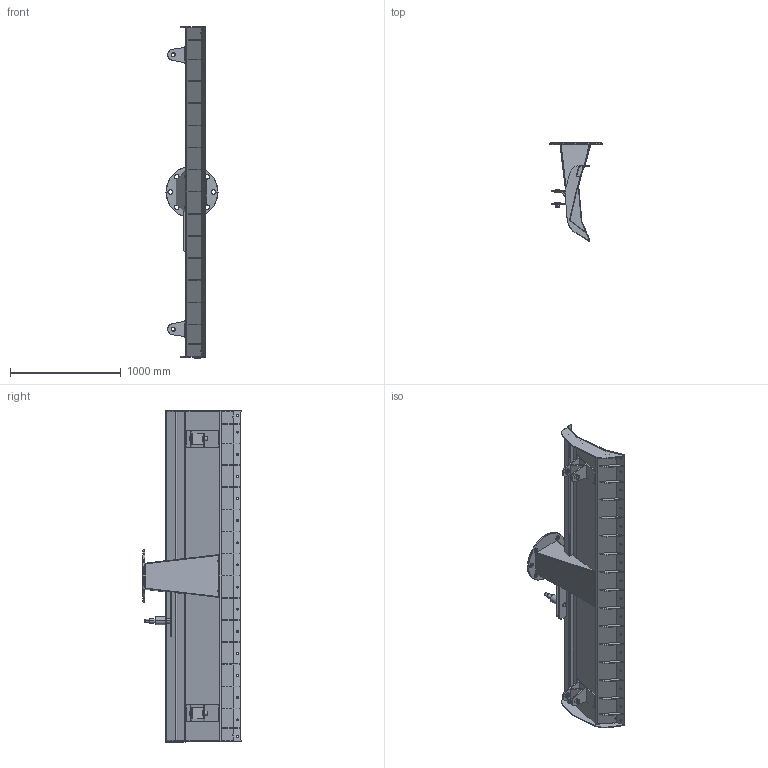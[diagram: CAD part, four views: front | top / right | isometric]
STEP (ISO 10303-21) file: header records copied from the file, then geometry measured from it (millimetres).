
FILE_DESCRIPTION (( 'STEP AP203' ), '1' );
FILE_NAME ('T-SP3.0-2HY-20²ùÑ©°å×é¼þ.STEP', '2025-10-29T12:49:08', ( '' ), ( '' ), 'SwSTEP 2.0', 'SolidWorks 2018', '' );
FILE_SCHEMA (( 'CONFIG_CONTROL_DESIGN' ));
Length unit declared in the file: millimetre
Products named in the file (19): T-SP3.0-2HY-20莓悕啣郪璃; T-SP3.0-2HY-03-09-Q235莓悕啣殏俔啣; T-SP3.0-2HY-03-02-Q345莓悕啣盓傅啣; T-SP2.7-2HY-LK-01-04-Q355B奻嘐隅啣; FXB-T12×130×100-Q355B方形板; T-SP3.0-2HY-03-10-Q235源倛啣-儂樓; T-SP3.0-2HY-03-05-Q235莓悕啣; T-SP3.0-2HY-03-04-Q345莓悕啣結啣; T-SP3.0-2HY-03-08-Q235莓悕啣澀啣; T-SP2.7-2HY-LK-01-05-Q355B狟嘐隅啣; T-SP3.0-2HY-03-06-Q345莓悕啣耜啣; FXB-T10×300×150-Q355B方形板; T-SP3.0-2HY-03-12-Q345铲雪板上油缸安装板; T-SP3.0-2HY-03-03-Q345莓悕啣耜盓傅啣; ZT-φ50×8-φ40×35-φ30×43-φ10×10-45#轴套; T-SP3.0-2HY-03-13-Q345铲雪板下油缸安装板; T-SP3.0-2HY-03-01-Q345莓悕啣楊擘攫; T-SP3.0-2HY-03-11-45#莓悕啣种粣; ZT-φ50×8-φ40×20-φ30×28-45#轴套
Assembly tree (40 placements, depth 2):
  T-SP3.0-2HY-20莓悕啣郪璃
    T-SP3.0-2HY-03-01-Q345莓悕啣楊擘攫
    T-SP3.0-2HY-03-02-Q345莓悕啣盓傅啣
    T-SP3.0-2HY-03-03-Q345莓悕啣耜盓傅啣  x2
    T-SP3.0-2HY-03-04-Q345莓悕啣結啣
    T-SP3.0-2HY-03-05-Q235莓悕啣
    T-SP3.0-2HY-03-06-Q345莓悕啣耜啣  x2
    T-SP3.0-2HY-03-08-Q235莓悕啣澀啣  x15
    T-SP3.0-2HY-03-09-Q235莓悕啣殏俔啣
    T-SP3.0-2HY-03-10-Q235源倛啣-儂樓
    T-SP3.0-2HY-03-11-45#莓悕啣种粣
    T-SP3.0-2HY-03-12-Q345铲雪板上油缸安装板
    T-SP3.0-2HY-03-13-Q345铲雪板下油缸安装板
    FXB-T10×300×150-Q355B方形板  x2
    T-SP2.7-2HY-LK-01-04-Q355B奻嘐隅啣  x2
    T-SP2.7-2HY-LK-01-05-Q355B狟嘐隅啣  x2
    FXB-T12×130×100-Q355B方形板  x2
    ZT-φ50×8-φ40×20-φ30×28-45#轴套  x2
    ZT-φ50×8-φ40×35-φ30×43-φ10×10-45#轴套  x2
Bounding box: 470 x 886.07 x 3000 mm (x, y, z)
Volume: 32125738.4 mm3; surface area: 10999532.6 mm2
Topology: 40 solids, 40 shells, 476 faces, 1097 edges, 700 vertices
Faces by surface type: plane 277, cylinder 147, cone 52
Entity records: 11714 total; most frequent: CARTESIAN_POINT 1782, DIRECTION 1655, ORIENTED_EDGE 1410, EDGE_CURVE 705, AXIS2_PLACEMENT_3D 617, VERTEX_POINT 444, LINE 421, VECTOR 421
